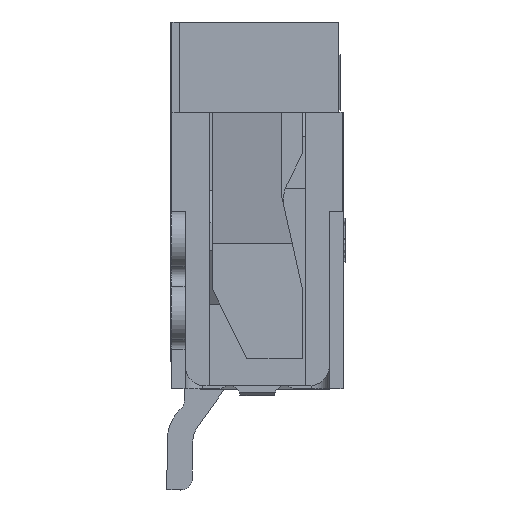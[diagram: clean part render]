
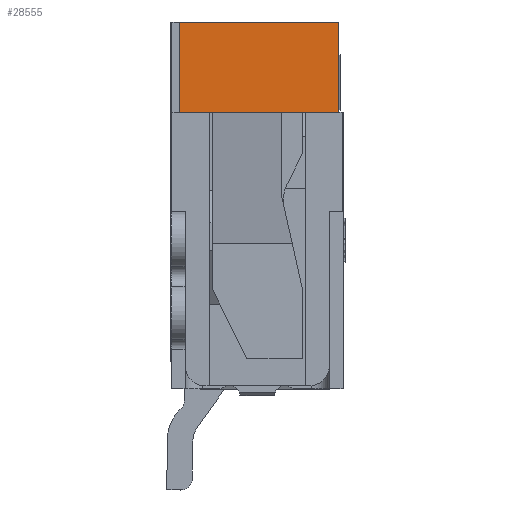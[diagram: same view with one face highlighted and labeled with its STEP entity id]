
A CAD part, left-side view. The second image highlights one B-rep face of the part: STEP entity #28555.
In plain terms, the highlighted planar face has unit normal (-1, 0, 0).
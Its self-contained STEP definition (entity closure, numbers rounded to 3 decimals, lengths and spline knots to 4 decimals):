
#3189 = EDGE_LOOP ( 'NONE', ( #41772, #20960, #9090, #5461 ) ) ;
#3335 = VERTEX_POINT ( 'NONE', #37388 ) ;
#4548 = CARTESIAN_POINT ( 'NONE',  ( -18.5, 2.375, -1.3 ) ) ;
#5461 = ORIENTED_EDGE ( 'NONE', *, *, #15147, .T. ) ;
#6785 = VECTOR ( 'NONE', #8920, 1000. ) ;
#8920 = DIRECTION ( 'NONE',  ( 0., 0., -1. ) ) ;
#9090 = ORIENTED_EDGE ( 'NONE', *, *, #75153, .T. ) ;
#12234 = DIRECTION ( 'NONE',  ( 0., -1., 0. ) ) ;
#14702 = LINE ( 'NONE', #51000, #6785 ) ;
#15147 = EDGE_CURVE ( 'NONE', #46397, #76276, #54507, .T. ) ;
#19558 = LINE ( 'NONE', #46178, #61302 ) ;
#20960 = ORIENTED_EDGE ( 'NONE', *, *, #75843, .F. ) ;
#21703 = CARTESIAN_POINT ( 'NONE',  ( -18.5, 2.375, -1.3 ) ) ;
#24759 = PLANE ( 'NONE',  #49181 ) ;
#26823 = CARTESIAN_POINT ( 'NONE',  ( -18.5, 2.375, 0. ) ) ;
#28555 = ADVANCED_FACE ( 'NONE', ( #30940 ), #24759, .F. ) ;
#30940 = FACE_OUTER_BOUND ( 'NONE', #3189, .T. ) ;
#31706 = DIRECTION ( 'NONE',  ( 1., 0., 0. ) ) ;
#37388 = CARTESIAN_POINT ( 'NONE',  ( -18.5, 0.075, 0. ) ) ;
#37621 = CARTESIAN_POINT ( 'NONE',  ( -18.5, 0.075, -1.3 ) ) ;
#41772 = ORIENTED_EDGE ( 'NONE', *, *, #61097, .T. ) ;
#43125 = LINE ( 'NONE', #59765, #62558 ) ;
#45029 = DIRECTION ( 'NONE',  ( 0., 0., 1. ) ) ;
#45962 = VECTOR ( 'NONE', #49950, 1000. ) ;
#46178 = CARTESIAN_POINT ( 'NONE',  ( -18.5, 0.075, -1.3 ) ) ;
#46397 = VERTEX_POINT ( 'NONE', #4548 ) ;
#49181 = AXIS2_PLACEMENT_3D ( 'NONE', #61085, #31706, #60315 ) ;
#49950 = DIRECTION ( 'NONE',  ( 0., -1., 0. ) ) ;
#50964 = VERTEX_POINT ( 'NONE', #26823 ) ;
#51000 = CARTESIAN_POINT ( 'NONE',  ( -18.5, 2.375, 0. ) ) ;
#54507 = LINE ( 'NONE', #21703, #45962 ) ;
#59765 = CARTESIAN_POINT ( 'NONE',  ( -18.5, 2.375, 0. ) ) ;
#60315 = DIRECTION ( 'NONE',  ( 0., 1., 0. ) ) ;
#61085 = CARTESIAN_POINT ( 'NONE',  ( -18.5, 1.225, -0.65 ) ) ;
#61097 = EDGE_CURVE ( 'NONE', #76276, #3335, #19558, .T. ) ;
#61302 = VECTOR ( 'NONE', #45029, 1000. ) ;
#62558 = VECTOR ( 'NONE', #12234, 1000. ) ;
#75153 = EDGE_CURVE ( 'NONE', #50964, #46397, #14702, .T. ) ;
#75843 = EDGE_CURVE ( 'NONE', #50964, #3335, #43125, .T. ) ;
#76276 = VERTEX_POINT ( 'NONE', #37621 ) ;
